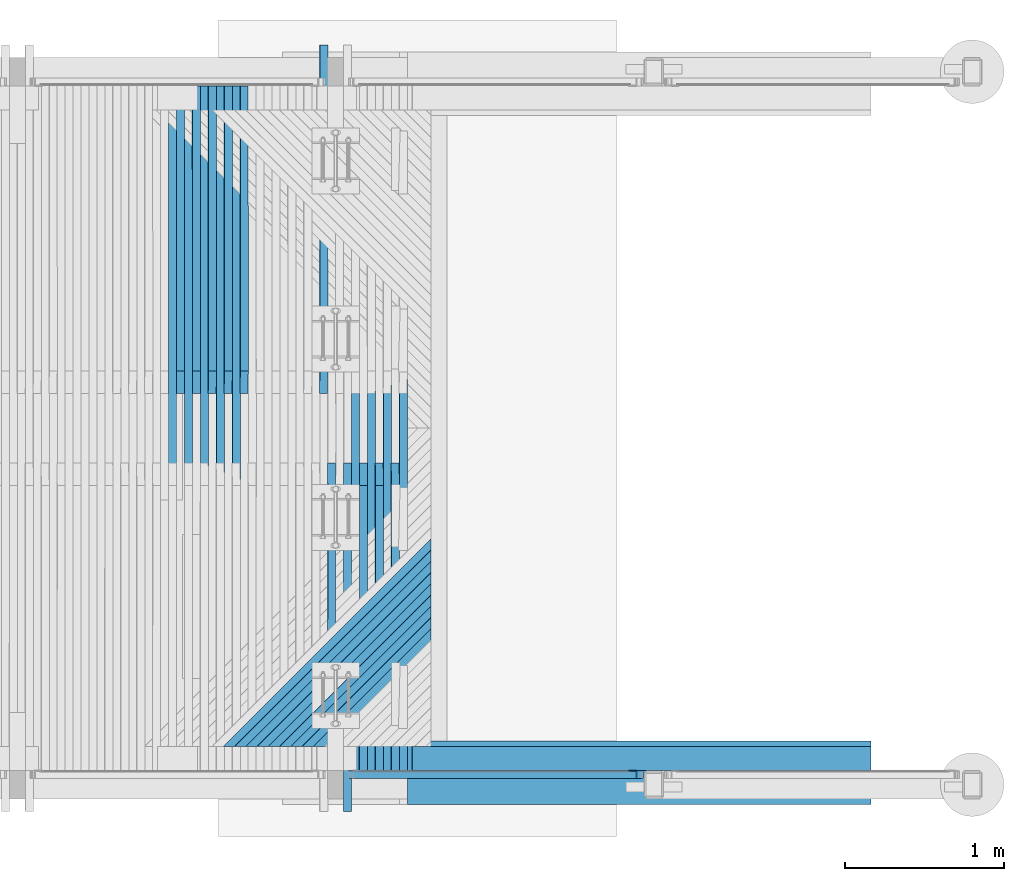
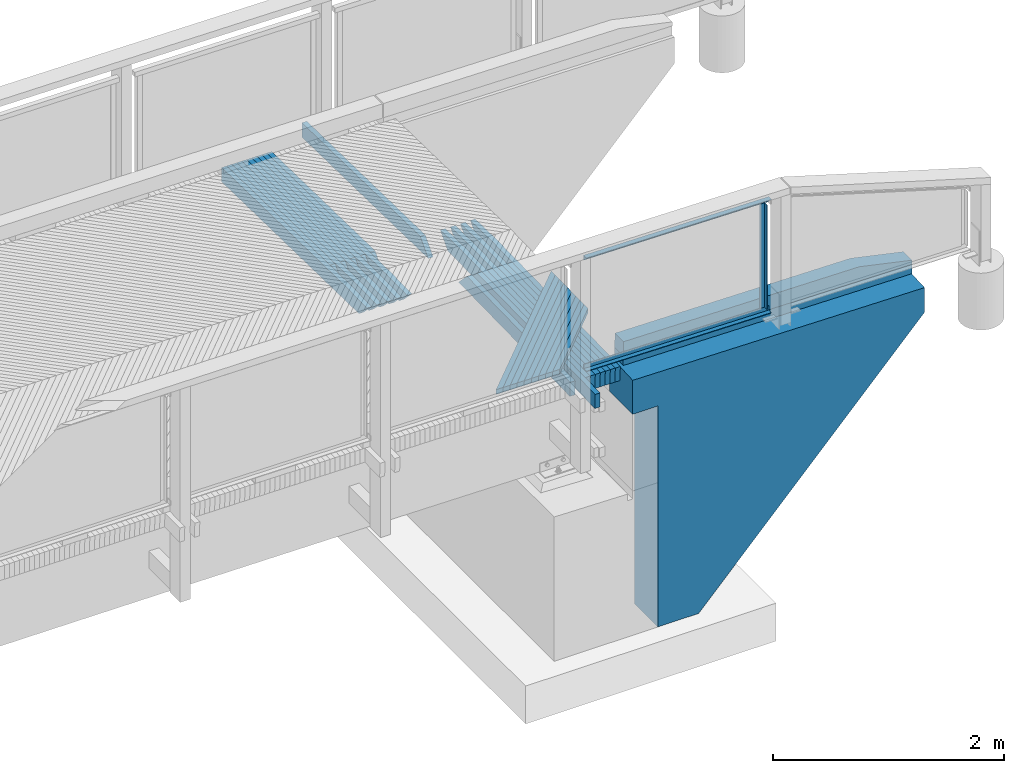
# One storey, part 46 of 65: 35 beams.
"""IFC2X3 building model written with IfcOpenShell, lengths in millimetres."""

from ifc_helpers import new_model, si_unit, frame, origin_with_axes, place, context, subcontext, project, spatial, faceted_brep, material, type_object, element, save


model = new_model("IFC2X3")

# Units and contexts
model_context = context("Model", 3, precision=1e-05, world=origin_with_axes())
body_context = subcontext(model_context, "Body", "Model", "MODEL_VIEW")
ifc_project = project(units=[si_unit("LENGTHUNIT", "METRE", prefix="MILLI"), si_unit("AREAUNIT", "SQUARE_METRE"), si_unit("VOLUMEUNIT", "CUBIC_METRE"), si_unit("MASSUNIT", "GRAM", prefix="KILO"), si_unit("TIMEUNIT", "SECOND"), si_unit("PLANEANGLEUNIT", "RADIAN"), si_unit("SOLIDANGLEUNIT", "STERADIAN"), si_unit("THERMODYNAMICTEMPERATUREUNIT", "DEGREE_CELSIUS"), si_unit("LUMINOUSINTENSITYUNIT", "LUMEN")], contexts=[model_context])

# Site, building, storey
site_placement = place(None, origin_with_axes())
site = spatial("IfcSite", under=ifc_project, at=site_placement, Name="Undefined", CompositionType="ELEMENT")
building_placement = place(site_placement, origin_with_axes())
building = spatial("IfcBuilding", under=site, at=building_placement, Name="Undefined", CompositionType="ELEMENT")
storey_placement = place(building_placement, origin_with_axes())
storey = spatial("IfcBuildingStorey", under=building, at=storey_placement, Name="Undefined", CompositionType="ELEMENT", Elevation=0.0)

# Beams
ifc_material_1 = material(Name="TIMBER/Timber_Undefined")
beam_type_1 = type_object("IfcBeamType", Name="150*100", PredefinedType="NOTDEFINED")
beam_1_placement = place(storey_placement, frame((19364.0305880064, 20289.9999999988, 3118.6757290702), z_axis=(0.0, -1.0, 0.0), x_axis=(-0.999904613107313, 0.0, 0.0138117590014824)))
element("IfcBeam", 1, at=beam_1_placement, inside=storey, type_object=beam_type_1, material=ifc_material_1, Name="TÖRMÄYSJOHDE", ObjectType="150*100", context=body_context, shape_type="Brep", body=[
    faceted_brep([(-3.63797880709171e-12, 50.0, -75.0), (-3.63797880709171e-12, 50.0, 75.0), (2885.27521749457, 50.0, 75.0), (2885.27521749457, 50.0, -75.0), (0.0, -49.9999999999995, 75.0), (2885.27521749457, -49.9999999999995, 75.0), (0.0, -49.9999999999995, -75.0), (2885.27521749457, -49.9999999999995, -75.0)], [[[0, 1, 2, 3]], [[1, 4, 5, 2]], [[4, 6, 7, 5]], [[6, 0, 3, 7]], [[5, 7, 3, 2]], [[6, 4, 1, 0]]]),
])
beam_type_2 = type_object("IfcBeamType", Name="150*150", PredefinedType="NOTDEFINED")
beam_2_placement = place(storey_placement, frame((19366.0358819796, 20289.9999999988, 3243.66334439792), z_axis=(0.0, -1.0, 0.0), x_axis=(-0.999904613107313, 0.0, 0.0138117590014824)))
element("IfcBeam", 2, at=beam_2_placement, inside=storey, type_object=beam_type_2, material=ifc_material_1, Name="TÖRMÄYSJOHDE", ObjectType="150*150", context=body_context, shape_type="Brep", body=[
    faceted_brep([(2885.27521749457, -74.9999999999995, 75.0), (2885.27521749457, -74.9999999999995, -75.0), (2885.27521749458, 75.0, -75.0), (2885.27521749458, 75.0, 75.0), (3.63797880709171e-12, 75.0000000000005, -75.0), (3.63797880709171e-12, 75.0000000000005, 75.0), (3.63797880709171e-12, 33.1222400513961, -75.0), (3.63797880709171e-12, 33.1222400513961, 75.0), (529.511118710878, -75.0, 75.0), (529.511118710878, -75.0, -75.0)], [[[0, 1, 2, 3]], [[4, 5, 3, 2]], [[5, 4, 6, 7]], [[0, 3, 5, 7, 8]], [[1, 0, 8, 9]], [[4, 2, 1, 9, 6]], [[8, 7, 6, 9]]]),
])
ifc_material_2 = material(Name="CONCRETE/Concrete_Undefined")
beam_type_3 = type_object("IfcBeamType", Name="2800*400", PredefinedType="NOTDEFINED")
beam_3_placement = place(storey_placement, frame((16430.3400332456, 20200.0, 1712.66804762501), z_axis=(0.0140428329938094, 0.0, 0.999901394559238), x_axis=(0.999901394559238, 0.0, -0.0140428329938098)))
element("IfcBeam", 3, at=beam_3_placement, inside=storey, type_object=beam_type_3, material=ifc_material_2, Name="SIIPIMUURI", ObjectType="2800*400", context=body_context, shape_type="Brep", body=[
    faceted_brep([(5.63100911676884e-07, 200.0, 1400.0), (0.280884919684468, -200.000000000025, 1380.0), (2915.56834818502, -200.0, 1380.0), (2915.28746382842, 200.0, 1400.0), (270.457242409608, 199.999999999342, -54.8754727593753), (270.457242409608, -200.0, -54.8754727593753), (255.29098277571, -200.0, 1025.01803336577), (255.29098277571, 199.999999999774, 1025.01803336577), (288.066954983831, 200.0, -1308.75182153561), (288.066954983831, -200.0, -1308.75182153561), (697.173583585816, 200.0, -1303.00623892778), (697.173583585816, -200.0, -1303.00623892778), (2919.22031514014, 200.0, 1119.96651154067), (2919.22031514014, -200.0, 1119.96651154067), (5.31563413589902, -200.0, 1021.50732511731), (5.31563413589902, 199.999999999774, 1021.50732511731)], [[[0, 1, 2, 3]], [[4, 5, 6, 7]], [[8, 9, 5, 4]], [[10, 11, 9, 8]], [[12, 13, 11, 10]], [[13, 12, 3, 2]], [[14, 6, 5, 9, 11, 13, 2, 1]], [[7, 6, 14, 15]], [[3, 12, 10, 8, 4, 7, 15, 0]], [[15, 14, 1, 0]]]),
])
ifc_material_3 = material(Name="STEEL/S235JR")
beam_type_4 = type_object("IfcBeamType", Name="L50*5", PredefinedType="NOTDEFINED")
beam_4_placement = place(storey_placement, frame((17867.5024948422, 20190.01, 4335.13069314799), z_axis=(0.0, -1.0, 0.0), x_axis=(0.0, 0.0, -1.0)))
element("IfcBeam", 4, at=beam_4_placement, inside=storey, type_object=beam_type_4, material=ifc_material_3, Name="BEAM", ObjectType="L50*5", context=body_context, shape_type="Brep", body=[
    faceted_brep([(0.0, 25.0, -25.0), (0.0, 25.0, 25.0), (1099.98982283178, 25.0, 25.0), (1099.98982283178, 25.0, -25.0), (0.0, 20.0, 25.0), (1099.98982283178, 20.0, 25.0), (0.0, 20.0, -20.0), (1099.98982283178, 20.0, -20.0), (0.0, -25.0, -20.0), (1099.98982283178, -25.0, -20.0), (0.0, -25.0, -25.0), (1099.98982283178, -25.0, -25.0)], [[[0, 1, 2, 3]], [[1, 4, 5, 2]], [[4, 6, 7, 5]], [[6, 8, 9, 7]], [[8, 10, 11, 9]], [[10, 0, 3, 11]], [[5, 7, 9, 11, 3, 2]], [[10, 8, 6, 4, 1, 0]]]),
])
for number, where, z_axis, x_axis, name in (
    (5, (17932.3725338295, 20190.0099999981, 3209.54440179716), (0.0, -1.0, 0.0), (-0.999888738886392, 0.0, 0.0149167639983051), "BEAM"),
    (6, (16082.6270966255, 20190.0100000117, 4387.1348513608), (0.0, -1.0, 0.0), (0.999888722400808, 0.0, -0.0149178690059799), "BEAM"),
):
    element("IfcBeam", number, at=place(storey_placement, frame(where, z_axis=z_axis, x_axis=x_axis)), inside=storey, type_object=beam_type_4, material=ifc_material_3, Name=name, ObjectType="L50*5", context=body_context, shape_type="Brep", body=[
        faceted_brep([(0.0, 25.0, -25.0), (0.0, 25.0, 25.0), (1849.2053154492, 25.0, 25.0), (1849.2053154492, 25.0, -25.0), (0.0, 20.0, 25.0), (1849.2053154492, 20.0, 25.0), (0.0, 20.0, -20.0), (1849.2053154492, 20.0, -20.0), (0.0, -25.0, -20.0), (1849.2053154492, -24.9999999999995, -20.0), (0.0, -25.0, -25.0), (1849.2053154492, -24.9999999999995, -25.0)], [[[0, 1, 2, 3]], [[1, 4, 5, 2]], [[4, 6, 7, 5]], [[6, 8, 9, 7]], [[8, 10, 11, 9]], [[10, 0, 3, 11]], [[5, 7, 9, 11, 3, 2]], [[10, 8, 6, 4, 1, 0]]]),
    ])
beam_type_5 = type_object("IfcBeamType", Name="50*50", PredefinedType="NOTDEFINED")
beam_5_placement = place(storey_placement, frame((17895.3052888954, 22364.5001003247, 3154.80495489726), z_axis=(0.706807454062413, -0.706981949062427, -0.0244897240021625), x_axis=(-0.707254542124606, -0.706948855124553, -0.00378535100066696)))
element("IfcBeam", 7, at=beam_5_placement, inside=storey, type_object=beam_type_5, material=ifc_material_1, Name="BEAM", ObjectType="50*50", context=body_context, shape_type="Brep", body=[
    faceted_brep([(2802.92643296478, -25.0, 25.0000000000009), (2852.92877373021, -25.0000000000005, -24.9999999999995), (2854.34301907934, 24.9999999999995, -25.0), (2804.3406783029, 25.0, 25.0000000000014), (1805.95401836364, 25.0, -24.9999999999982), (1855.92241106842, 24.9999999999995, 25.0000000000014), (1856.9571734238, -25.0, 25.000000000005), (1806.98878071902, -25.0, -24.9999999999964)], [[[0, 1, 2, 3]], [[3, 2, 4, 5]], [[0, 3, 5, 6]], [[1, 0, 6, 7]], [[2, 1, 7, 4]], [[6, 5, 4, 7]]]),
])
beam_6_placement = place(storey_placement, frame((17824.5905388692, 22364.5001003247, 3155.96311087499), z_axis=(0.706810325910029, -0.706981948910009, -0.0244067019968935), x_axis=(-0.707254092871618, -0.706948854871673, -0.00386842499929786)))
element("IfcBeam", 8, at=beam_6_placement, inside=storey, type_object=beam_type_5, material=ifc_material_1, Name="BEAM", ObjectType="50*50", context=body_context, shape_type="Brep", body=[
    faceted_brep([(2802.92643296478, -25.0, 25.0000000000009), (2852.92877373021, -25.0000000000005, -24.9999999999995), (2854.34301907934, 24.9999999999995, -25.0), (2804.3406783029, 25.0, 25.0000000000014), (1705.97428604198, 24.9999999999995, -24.9999999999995), (1755.94291351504, 24.9999999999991, 25.0000000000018), (1756.96937511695, -25.0, 25.0), (1707.0007476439, -25.0000000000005, -24.9999999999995)], [[[0, 1, 2, 3]], [[3, 2, 4, 5]], [[0, 3, 5, 6]], [[1, 0, 6, 7]], [[2, 1, 7, 4]], [[6, 5, 4, 7]]]),
])
beam_7_placement = place(storey_placement, frame((17753.8756532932, 22364.5001003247, 3157.11296064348), z_axis=(0.706813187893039, -0.706981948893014, -0.0243236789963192), x_axis=(-0.707253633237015, -0.706948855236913, -0.0039515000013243)))
element("IfcBeam", 9, at=beam_7_placement, inside=storey, type_object=beam_type_5, material=ifc_material_1, Name="BEAM", ObjectType="50*50", context=body_context, shape_type="Brep", body=[
    faceted_brep([(2802.92643296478, -25.0, 25.0000000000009), (2852.92877373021, -25.0000000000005, -24.9999999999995), (2854.34301907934, 24.9999999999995, -25.0), (2804.3406783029, 25.0, 25.0000000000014), (1605.99425901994, 25.0000000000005, -25.0000000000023), (1655.96312129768, 25.0000000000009, 24.9999999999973), (1656.98128205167, -24.9999999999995, 24.9999999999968), (1607.01241977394, -24.9999999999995, -25.0000000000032)], [[[0, 1, 2, 3]], [[3, 2, 4, 5]], [[0, 3, 5, 6]], [[1, 0, 6, 7]], [[2, 1, 7, 4]], [[6, 5, 4, 7]]]),
])
beam_8_placement = place(storey_placement, frame((17683.1606331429, 22364.5001003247, 3158.25450418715), z_axis=(0.706816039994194, -0.706981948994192, -0.0242406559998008), x_axis=(-0.707253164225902, -0.706948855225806, -0.00403457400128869)))
element("IfcBeam", 10, at=beam_8_placement, inside=storey, type_object=beam_type_5, material=ifc_material_1, Name="BEAM", ObjectType="50*50", context=body_context, shape_type="Brep", body=[
    faceted_brep([(2802.92643296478, -25.0, 25.0000000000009), (2852.92877373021, -25.0000000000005, -24.9999999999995), (2854.34301907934, 24.9999999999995, -25.0), (2804.3406783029, 25.0, 25.0000000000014), (1506.01393205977, 25.0000000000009, -24.9999999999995), (1555.98302910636, 25.0000000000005, 25.0000000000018), (1556.99288906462, -24.9999999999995, 24.9999999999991), (1507.02379201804, -24.9999999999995, -24.9999999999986)], [[[0, 1, 2, 3]], [[3, 2, 4, 5]], [[0, 3, 5, 6]], [[1, 0, 6, 7]], [[2, 1, 7, 4]], [[6, 5, 4, 7]]]),
])
beam_9_placement = place(storey_placement, frame((17612.4454793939, 22364.5001003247, 3159.38774149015), z_axis=(0.706818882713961, -0.706981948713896, -0.0241576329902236), x_axis=(-0.70725268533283, -0.706948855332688, -0.00411764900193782)))
element("IfcBeam", 11, at=beam_9_placement, inside=storey, type_object=beam_type_5, material=ifc_material_1, Name="BEAM", ObjectType="50*50", context=body_context, shape_type="Brep", body=[
    faceted_brep([(2802.92643296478, -25.0, 25.0000000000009), (2852.92877373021, -25.0000000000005, -24.9999999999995), (2854.34301907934, 24.9999999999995, -25.0), (2804.3406783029, 25.0, 25.0000000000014), (1406.03330360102, 24.9999999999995, -25.0000000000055), (1456.00263545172, 24.9999999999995, 24.9999999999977), (1457.0041945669, -25.0000000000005, 24.9999999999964), (1407.03486271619, -25.0000000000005, -25.000000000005)], [[[0, 1, 2, 3]], [[3, 2, 4, 5]], [[0, 3, 5, 6]], [[1, 0, 6, 7]], [[2, 1, 7, 4]], [[6, 5, 4, 7]]]),
])
beam_10_placement = place(storey_placement, frame((17541.730193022, 22364.5001003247, 3160.51267253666), z_axis=(0.706821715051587, -0.706981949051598, -0.0240746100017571), x_axis=(-0.707252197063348, -0.706948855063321, -0.00420072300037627)))
element("IfcBeam", 12, at=beam_10_placement, inside=storey, type_object=beam_type_5, material=ifc_material_1, Name="BEAM", ObjectType="50*50", context=body_context, shape_type="Brep", body=[
    faceted_brep([(2802.92643296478, -25.0, 25.0000000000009), (2852.92877373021, -25.0000000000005, -24.9999999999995), (2854.34301907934, 24.9999999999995, -25.0), (2804.3406783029, 25.0, 25.0000000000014), (1306.05236988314, 25.0000000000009, -25.0000000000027), (1356.02193646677, 25.0, 24.9999999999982), (1357.0151947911, -25.0, 24.9999999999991), (1307.04562820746, -24.9999999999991, -25.0)], [[[0, 1, 2, 3]], [[3, 2, 4, 5]], [[0, 3, 5, 6]], [[1, 0, 6, 7]], [[2, 1, 7, 4]], [[6, 5, 4, 7]]]),
])
beam_11_placement = place(storey_placement, frame((17471.0147750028, 22364.5001003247, 3161.6292973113), z_axis=(0.706824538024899, -0.706981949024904, -0.0239915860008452), x_axis=(-0.707251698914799, -0.706948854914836, -0.004283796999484)))
element("IfcBeam", 13, at=beam_11_placement, inside=storey, type_object=beam_type_5, material=ifc_material_1, Name="BEAM", ObjectType="50*50", context=body_context, shape_type="Brep", body=[
    faceted_brep([(2802.92643296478, -25.0, 25.0000000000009), (2852.92877373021, -25.0000000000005, -24.9999999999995), (2854.34301907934, 24.9999999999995, -25.0), (2804.3406783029, 25.0, 25.0000000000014), (1206.07112918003, 24.9999999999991, -25.0000000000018), (1256.04093053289, 25.0, 25.0000000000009), (1257.02588801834, -25.0000000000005, 24.9999999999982), (1207.05608666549, -25.0000000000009, -25.0000000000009)], [[[0, 1, 2, 3]], [[3, 2, 4, 5]], [[0, 3, 5, 6]], [[1, 0, 6, 7]], [[2, 1, 7, 4]], [[6, 5, 4, 7]]]),
])
beam_12_placement = place(storey_placement, frame((17400.2992263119, 22364.5001003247, 3162.73761579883), z_axis=(0.706827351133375, -0.706981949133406, -0.0239085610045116), x_axis=(-0.707251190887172, -0.70694885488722, -0.00436687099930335)))
element("IfcBeam", 14, at=beam_12_placement, inside=storey, type_object=beam_type_5, material=ifc_material_1, Name="BEAM", ObjectType="50*50", context=body_context, shape_type="Brep", body=[
    faceted_brep([(2802.92643296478, -25.0, 25.0000000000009), (2852.92877373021, -25.0000000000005, -24.9999999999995), (2854.34301907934, 24.9999999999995, -25.0), (2804.3406783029, 25.0, 25.0000000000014), (1106.08957869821, 24.9999999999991, -24.9999999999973), (1156.05961482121, 24.9999999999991, 25.0000000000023), (1157.03627142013, -25.0000000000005, 25.0000000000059), (1107.06623529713, -25.0000000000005, -24.9999999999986)], [[[0, 1, 2, 3]], [[3, 2, 4, 5]], [[0, 3, 5, 6]], [[1, 0, 6, 7]], [[2, 1, 7, 4]], [[6, 5, 4, 7]]]),
])
beam_13_placement = place(storey_placement, frame((17329.583547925, 22364.5001003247, 3163.83762798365), z_axis=(0.706830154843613, -0.706981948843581, -0.0238255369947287), x_axis=(-0.707250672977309, -0.706948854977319, -0.00444994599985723)))
element("IfcBeam", 15, at=beam_13_placement, inside=storey, type_object=beam_type_5, material=ifc_material_1, Name="BEAM", ObjectType="50*50", context=body_context, shape_type="Brep", body=[
    faceted_brep([(2802.92643296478, -25.0, 25.0000000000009), (2852.92877373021, -25.0000000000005, -24.9999999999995), (2854.34301907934, 24.9999999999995, -25.0), (2804.3406783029, 25.0, 25.0000000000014), (1006.10771559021, 24.9999999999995, -25.0000000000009), (1056.07798651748, 24.9999999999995, 24.9999999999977), (1057.04634223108, -25.0000000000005, 25.0), (1007.0760713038, -25.0000000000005, -24.9999999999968)], [[[0, 1, 2, 3]], [[3, 2, 4, 5]], [[0, 3, 5, 6]], [[1, 0, 6, 7]], [[2, 1, 7, 4]], [[6, 5, 4, 7]]]),
])
beam_type_6 = type_object("IfcBeamType", Name="150*50", PredefinedType="NOTDEFINED")
beam_14_placement = place(storey_placement, frame((16374.1835977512, 20216.5046076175, 3034.87917629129), z_axis=(0.013832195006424, -0.0199960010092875, 0.999704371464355), x_axis=(0.000276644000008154, 0.999800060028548, 0.0199940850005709)))
element("IfcBeam", 16, at=beam_14_placement, inside=storey, type_object=beam_type_6, material=ifc_material_1, Name="BEAM", ObjectType="150*50", context=body_context, shape_type="Brep", body=[
    faceted_brep([(-1.6778358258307e-07, -24.9999999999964, -74.9999999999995), (1.67790858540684e-07, -24.9999999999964, 75.0000000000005), (1.67790858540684e-07, 25.0000000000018, 74.9999999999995), (-1.6778358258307e-07, 25.0000000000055, -75.0), (1789.96936433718, -25.0000000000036, 74.9999999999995), (1789.96936408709, 24.9999999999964, 75.0), (1928.42646328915, 24.9999999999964, -75.0), (1928.42646353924, -25.0, -75.0000000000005)], [[[0, 1, 2, 3]], [[2, 1, 4, 5]], [[3, 2, 5, 6]], [[0, 3, 6, 7]], [[1, 0, 7, 4]], [[6, 5, 4, 7]]]),
])
beam_15_placement = place(storey_placement, frame((16424.1987277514, 20216.5046076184, 3034.17884260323), z_axis=(0.0139982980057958, -0.0199960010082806, 0.999702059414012), x_axis=(0.000279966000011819, 0.999800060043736, 0.0199940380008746)))
element("IfcBeam", 17, at=beam_15_placement, inside=storey, type_object=beam_type_6, material=ifc_material_1, Name="BEAM", ObjectType="150*50", context=body_context, shape_type="Brep", body=[
    faceted_brep([(-1.6778358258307e-07, -24.9999999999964, -74.9999999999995), (1.67790858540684e-07, -24.9999999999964, 75.0000000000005), (1.67790858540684e-07, 25.0000000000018, 74.9999999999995), (-1.6778358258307e-07, 25.0000000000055, -75.0), (2375.00494422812, 25.0000000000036, -75.0), (2375.00494447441, -24.9999999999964, -74.9999999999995), (2510.59248714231, -24.9999999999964, 60.5875430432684), (2150.42514405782, -24.9999999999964, 75.0000000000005), (2150.42515052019, 25.0000000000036, 74.9999999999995), (2510.59248715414, 25.0000000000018, 60.5875433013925)], [[[0, 1, 2, 3]], [[0, 3, 4, 5]], [[1, 0, 5, 6, 7]], [[2, 1, 7, 8]], [[4, 3, 2, 8, 9]], [[5, 4, 9, 6]], [[6, 9, 8, 7]]]),
])
beam_16_placement = place(storey_placement, frame((16274.1731307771, 20216.5046076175, 3036.26228302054), z_axis=(0.0136660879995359, -0.0199960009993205, 0.999706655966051), x_axis=(0.000273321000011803, 0.999800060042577, 0.0199941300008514)))
element("IfcBeam", 18, at=beam_16_placement, inside=storey, type_object=beam_type_6, material=ifc_material_1, Name="BEAM", ObjectType="150*50", context=body_context, shape_type="Brep", body=[
    faceted_brep([(-1.6778358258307e-07, -24.9999999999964, -74.9999999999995), (1.67790858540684e-07, -24.9999999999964, 75.0000000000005), (1.67790858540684e-07, 25.0000000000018, 74.9999999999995), (-1.6778358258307e-07, 25.0000000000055, -75.0), (1789.96936433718, -25.0000000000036, 74.9999999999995), (1789.96936408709, 24.9999999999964, 75.0), (1928.42646328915, 24.9999999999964, -75.0), (1928.42646353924, -25.0, -75.0000000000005)], [[[0, 1, 2, 3]], [[2, 1, 4, 5]], [[3, 2, 5, 6]], [[0, 3, 6, 7]], [[1, 0, 7, 4]], [[6, 5, 4, 7]]]),
])
beam_17_placement = place(storey_placement, frame((16324.1883764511, 20216.5046076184, 3035.57025962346), z_axis=(0.013832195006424, -0.0199960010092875, 0.999704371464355), x_axis=(0.000276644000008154, 0.999800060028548, 0.0199940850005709)))
element("IfcBeam", 19, at=beam_17_placement, inside=storey, type_object=beam_type_6, material=ifc_material_1, Name="BEAM", ObjectType="150*50", context=body_context, shape_type="Brep", body=[
    faceted_brep([(-1.6778358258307e-07, -24.9999999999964, -74.9999999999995), (1.67790858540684e-07, -24.9999999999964, 75.0000000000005), (1.67790858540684e-07, 25.0000000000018, 74.9999999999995), (-1.6778358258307e-07, 25.0000000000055, -75.0), (2375.00494422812, 25.0000000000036, -75.0), (2375.00494447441, -24.9999999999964, -74.9999999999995), (2510.59248714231, -24.9999999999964, 60.5875430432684), (2150.42514405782, -24.9999999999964, 75.0000000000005), (2150.42515052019, 25.0000000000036, 74.9999999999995), (2510.59248715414, 25.0000000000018, 60.5875433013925)], [[[0, 1, 2, 3]], [[0, 3, 4, 5]], [[1, 0, 5, 6, 7]], [[2, 1, 7, 8]], [[4, 3, 2, 8, 9]], [[5, 4, 9, 6]], [[6, 9, 8, 7]]]),
])
beam_18_placement = place(storey_placement, frame((16174.162435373, 20216.5046076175, 3037.62877245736), z_axis=(0.0134999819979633, -0.0199960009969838, 0.999708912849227), x_axis=(0.000269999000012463, 0.999800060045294, 0.0199941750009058)))
element("IfcBeam", 20, at=beam_18_placement, inside=storey, type_object=beam_type_6, material=ifc_material_1, Name="BEAM", ObjectType="150*50", context=body_context, shape_type="Brep", body=[
    faceted_brep([(-1.6778358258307e-07, -24.9999999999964, -74.9999999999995), (1.67790858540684e-07, -24.9999999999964, 75.0000000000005), (1.67790858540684e-07, 25.0000000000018, 74.9999999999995), (-1.6778358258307e-07, 25.0000000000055, -75.0), (1789.96936433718, -25.0000000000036, 74.9999999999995), (1789.96936408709, 24.9999999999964, 75.0), (1928.42646328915, 24.9999999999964, -75.0), (1928.42646353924, -25.0, -75.0000000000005)], [[[0, 1, 2, 3]], [[2, 1, 4, 5]], [[3, 2, 5, 6]], [[0, 3, 6, 7]], [[1, 0, 7, 4]], [[6, 5, 4, 7]]]),
])
for number, where, z_axis, x_axis, name in (
    (21, (16224.1777953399, 20216.5046076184, 3036.94505937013), (0.0136660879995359, -0.0199960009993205, 0.999706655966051), (0.000273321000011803, 0.999800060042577, 0.0199941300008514), "BEAM"),
    (22, (16124.166987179, 20216.5046076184, 3038.30324180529), (0.0134999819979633, -0.0199960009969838, 0.999708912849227), (0.000269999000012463, 0.999800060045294, 0.0199941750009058), "BEAM"),
):
    element("IfcBeam", number, at=place(storey_placement, frame(where, z_axis=z_axis, x_axis=x_axis)), inside=storey, type_object=beam_type_6, material=ifc_material_1, Name=name, ObjectType="150*50", context=body_context, shape_type="Brep", body=[
        faceted_brep([(-1.6778358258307e-07, -24.9999999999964, -74.9999999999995), (1.67790858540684e-07, -24.9999999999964, 75.0000000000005), (1.67790858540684e-07, 25.0000000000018, 74.9999999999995), (-1.6778358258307e-07, 25.0000000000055, -75.0), (2375.00494422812, 25.0000000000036, -75.0), (2375.00494447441, -24.9999999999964, -74.9999999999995), (2510.59248714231, -24.9999999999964, 60.5875430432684), (2150.42514405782, -24.9999999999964, 75.0000000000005), (2150.42515052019, 25.0000000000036, 74.9999999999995), (2510.59248715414, 25.0000000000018, 60.5875433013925)], [[[0, 1, 2, 3]], [[0, 3, 4, 5]], [[1, 0, 5, 6, 7]], [[2, 1, 7, 8]], [[4, 3, 2, 8, 9]], [[5, 4, 9, 6]], [[6, 9, 8, 7]]]),
    ])
beam_19_placement = place(storey_placement, frame((15974.1403703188, 20216.5046076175, 3040.31189930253), z_axis=(0.0131677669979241, -0.019996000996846, 0.999713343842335), x_axis=(0.00026335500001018, 0.999800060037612, 0.0199942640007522)))
element("IfcBeam", 23, at=beam_19_placement, inside=storey, type_object=beam_type_6, material=ifc_material_1, Name="BEAM", ObjectType="150*50", context=body_context, shape_type="Brep", body=[
    faceted_brep([(-1.6778358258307e-07, -24.9999999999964, -74.9999999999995), (1.67790858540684e-07, -24.9999999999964, 75.0000000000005), (1.67790858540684e-07, 25.0000000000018, 74.9999999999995), (-1.6778358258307e-07, 25.0000000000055, -75.0), (1789.96936433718, -25.0000000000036, 74.9999999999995), (1789.96936408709, 24.9999999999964, 75.0), (1928.42646328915, 24.9999999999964, -75.0), (1928.42646353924, -25.0, -75.0000000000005)], [[[0, 1, 2, 3]], [[2, 1, 4, 5]], [[3, 2, 5, 6]], [[0, 3, 6, 7]], [[1, 0, 7, 4]], [[6, 5, 4, 7]]]),
])
beam_20_placement = place(storey_placement, frame((15374.6689796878, 24513.4953923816, 3047.96305914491), z_axis=(0.0121711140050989, 0.0199960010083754, 0.999725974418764), x_axis=(0.000243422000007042, -0.999800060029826, 0.0199945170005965)))
element("IfcBeam", 24, at=beam_20_placement, inside=storey, type_object=beam_type_6, material=ifc_material_1, Name="BEAM", ObjectType="150*50", context=body_context, shape_type="Brep", body=[
    faceted_brep([(-1.6778358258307e-07, -24.9999999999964, -74.9999999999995), (-1.6778358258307e-07, 25.0000000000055, -75.0), (2375.00494422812, 25.0000000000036, -75.0), (2375.00494447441, -24.9999999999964, -74.9999999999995), (1.67790858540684e-07, -24.9999999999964, 75.0000000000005), (1.67790858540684e-07, 25.0000000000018, 74.9999999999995), (2150.42515052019, 25.0000000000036, 74.9999999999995), (2510.59248715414, 25.0000000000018, 60.5875433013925), (2510.59248714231, -24.9999999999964, 60.5875430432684), (2150.42514405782, -24.9999999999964, 75.0000000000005)], [[[0, 1, 2, 3]], [[0, 4, 5, 1]], [[2, 1, 5, 6, 7]], [[3, 2, 7, 8]], [[4, 0, 3, 8, 9]], [[5, 4, 9, 6]], [[8, 7, 6, 9]]]),
])
beam_21_placement = place(storey_placement, frame((15424.6852042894, 24513.4953923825, 3047.34582919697), z_axis=(0.0123372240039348, 0.0199960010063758, 0.999723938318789), x_axis=(0.000246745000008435, -0.999800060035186, 0.0199944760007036)))
element("IfcBeam", 25, at=beam_21_placement, inside=storey, type_object=beam_type_6, material=ifc_material_1, Name="BEAM", ObjectType="150*50", context=body_context, shape_type="Brep", body=[
    faceted_brep([(-1.6778358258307e-07, -24.9999999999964, -74.9999999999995), (1.67790858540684e-07, -24.9999999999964, 75.0000000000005), (1.67790858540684e-07, 25.0000000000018, 74.9999999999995), (-1.6778358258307e-07, 25.0000000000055, -75.0), (1789.96936408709, 24.9999999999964, 75.0), (1928.42646328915, 24.9999999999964, -75.0), (1928.42646353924, -25.0, -75.0000000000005), (1789.96936433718, -25.0000000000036, 74.9999999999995)], [[[0, 1, 2, 3]], [[3, 2, 4, 5]], [[0, 3, 5, 6]], [[1, 0, 6, 7]], [[2, 1, 7, 4]], [[5, 4, 7, 6]]]),
])
beam_22_placement = place(storey_placement, frame((15274.6563525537, 24513.4953923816, 3049.1800909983), z_axis=(0.0120050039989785, 0.0199960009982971, 0.999727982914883), x_axis=(0.000240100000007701, -0.999800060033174, 0.0199945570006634)))
element("IfcBeam", 26, at=beam_22_placement, inside=storey, type_object=beam_type_6, material=ifc_material_1, Name="BEAM", ObjectType="150*50", context=body_context, shape_type="Brep", body=[
    faceted_brep([(-1.6778358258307e-07, -24.9999999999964, -74.9999999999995), (-1.6778358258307e-07, 25.0000000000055, -75.0), (2375.00494422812, 25.0000000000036, -75.0), (2375.00494447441, -24.9999999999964, -74.9999999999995), (1.67790858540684e-07, -24.9999999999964, 75.0000000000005), (1.67790858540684e-07, 25.0000000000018, 74.9999999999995), (2150.42515052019, 25.0000000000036, 74.9999999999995), (2510.59248715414, 25.0000000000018, 60.5875433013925), (2510.59248714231, -24.9999999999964, 60.5875430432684), (2150.42514405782, -24.9999999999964, 75.0000000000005)], [[[0, 1, 2, 3]], [[0, 4, 5, 1]], [[2, 1, 5, 6, 7]], [[3, 2, 7, 8]], [[4, 0, 3, 8, 9]], [[5, 4, 9, 6]], [[8, 7, 6, 9]]]),
])
beam_23_placement = place(storey_placement, frame((15324.672679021, 24513.4953923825, 3048.57117152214), z_axis=(0.0121711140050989, 0.0199960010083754, 0.999725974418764), x_axis=(0.000243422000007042, -0.999800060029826, 0.0199945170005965)))
element("IfcBeam", 27, at=beam_23_placement, inside=storey, type_object=beam_type_6, material=ifc_material_1, Name="BEAM", ObjectType="150*50", context=body_context, shape_type="Brep", body=[
    faceted_brep([(-1.6778358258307e-07, -24.9999999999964, -74.9999999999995), (1.67790858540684e-07, -24.9999999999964, 75.0000000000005), (1.67790858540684e-07, 25.0000000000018, 74.9999999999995), (-1.6778358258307e-07, 25.0000000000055, -75.0), (1789.96936408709, 24.9999999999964, 75.0), (1928.42646328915, 24.9999999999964, -75.0), (1928.42646353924, -25.0, -75.0000000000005), (1789.96936433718, -25.0000000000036, 74.9999999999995)], [[[0, 1, 2, 3]], [[3, 2, 4, 5]], [[0, 3, 5, 6]], [[1, 0, 6, 7]], [[2, 1, 7, 4]], [[5, 4, 7, 6]]]),
])
beam_24_placement = place(storey_placement, frame((15174.6435245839, 24513.4953923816, 3050.38050520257), z_axis=(0.0118388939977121, 0.0199960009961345, 0.999729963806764), x_axis=(0.0002367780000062, -0.999800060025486, 0.0199945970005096)))
element("IfcBeam", 28, at=beam_24_placement, inside=storey, type_object=beam_type_6, material=ifc_material_1, Name="BEAM", ObjectType="150*50", context=body_context, shape_type="Brep", body=[
    faceted_brep([(-1.6778358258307e-07, -24.9999999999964, -74.9999999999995), (-1.6778358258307e-07, 25.0000000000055, -75.0), (2375.00494422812, 25.0000000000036, -75.0), (2375.00494447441, -24.9999999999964, -74.9999999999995), (1.67790858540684e-07, -24.9999999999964, 75.0000000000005), (1.67790858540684e-07, 25.0000000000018, 74.9999999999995), (2150.42515052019, 25.0000000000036, 74.9999999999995), (2510.59248715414, 25.0000000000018, 60.5875433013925), (2510.59248714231, -24.9999999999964, 60.5875430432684), (2150.42514405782, -24.9999999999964, 75.0000000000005)], [[[0, 1, 2, 3]], [[0, 4, 5, 1]], [[2, 1, 5, 6, 7]], [[3, 2, 7, 8]], [[4, 0, 3, 8, 9]], [[5, 4, 9, 6]], [[8, 7, 6, 9]]]),
])
beam_25_placement = place(storey_placement, frame((15224.659951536, 24513.4953923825, 3049.77989621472), z_axis=(0.0120050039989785, 0.0199960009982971, 0.999727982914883), x_axis=(0.000240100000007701, -0.999800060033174, 0.0199945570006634)))
element("IfcBeam", 29, at=beam_25_placement, inside=storey, type_object=beam_type_6, material=ifc_material_1, Name="BEAM", ObjectType="150*50", context=body_context, shape_type="Brep", body=[
    faceted_brep([(-1.6778358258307e-07, -24.9999999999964, -74.9999999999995), (1.67790858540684e-07, -24.9999999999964, 75.0000000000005), (1.67790858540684e-07, 25.0000000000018, 74.9999999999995), (-1.6778358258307e-07, 25.0000000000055, -75.0), (1789.96936408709, 24.9999999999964, 75.0), (1928.42646328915, 24.9999999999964, -75.0), (1928.42646353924, -25.0, -75.0000000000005), (1789.96936433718, -25.0000000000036, 74.9999999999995)], [[[0, 1, 2, 3]], [[3, 2, 4, 5]], [[0, 3, 5, 6]], [[1, 0, 6, 7]], [[2, 1, 7, 4]], [[5, 4, 7, 6]]]),
])
beam_26_placement = place(storey_placement, frame((15074.6304985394, 24513.4953923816, 3051.56430172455), z_axis=(0.0116727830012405, 0.0199960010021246, 0.999731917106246), x_axis=(0.000233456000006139, -0.999800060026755, 0.0199946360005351)))
element("IfcBeam", 30, at=beam_26_placement, inside=storey, type_object=beam_type_6, material=ifc_material_1, Name="BEAM", ObjectType="150*50", context=body_context, shape_type="Brep", body=[
    faceted_brep([(-1.6778358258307e-07, -24.9999999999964, -74.9999999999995), (-1.6778358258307e-07, 25.0000000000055, -75.0), (2375.00494422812, 25.0000000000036, -75.0), (2375.00494447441, -24.9999999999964, -74.9999999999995), (1.67790858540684e-07, -24.9999999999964, 75.0000000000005), (1.67790858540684e-07, 25.0000000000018, 74.9999999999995), (2150.42515052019, 25.0000000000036, 74.9999999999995), (2510.59248715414, 25.0000000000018, 60.5875433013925), (2510.59248714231, -24.9999999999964, 60.5875430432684), (2150.42514405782, -24.9999999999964, 75.0000000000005)], [[[0, 1, 2, 3]], [[0, 4, 5, 1]], [[2, 1, 5, 6, 7]], [[3, 2, 7, 8]], [[4, 0, 3, 8, 9]], [[5, 4, 9, 6]], [[8, 7, 6, 9]]]),
])
beam_27_placement = place(storey_placement, frame((15124.6470245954, 24513.4953923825, 3050.97200324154), z_axis=(0.0118388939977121, 0.0199960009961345, 0.999729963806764), x_axis=(0.0002367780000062, -0.999800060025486, 0.0199945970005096)))
element("IfcBeam", 31, at=beam_27_placement, inside=storey, type_object=beam_type_6, material=ifc_material_1, Name="BEAM", ObjectType="150*50", context=body_context, shape_type="Brep", body=[
    faceted_brep([(-1.6778358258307e-07, -24.9999999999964, -74.9999999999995), (1.67790858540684e-07, -24.9999999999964, 75.0000000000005), (1.67790858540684e-07, 25.0000000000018, 74.9999999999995), (-1.6778358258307e-07, 25.0000000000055, -75.0), (1789.96936408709, 24.9999999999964, 75.0), (1928.42646328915, 24.9999999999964, -75.0), (1928.42646353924, -25.0, -75.0000000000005), (1789.96936433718, -25.0000000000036, 74.9999999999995)], [[[0, 1, 2, 3]], [[3, 2, 4, 5]], [[0, 3, 5, 6]], [[1, 0, 6, 7]], [[2, 1, 7, 4]], [[5, 4, 7, 6]]]),
])
beam_28_placement = place(storey_placement, frame((14974.6172771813, 24513.4953923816, 3052.73148053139), z_axis=(0.0115066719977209, 0.0199960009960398, 0.999733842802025), x_axis=(0.00023013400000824, -0.999800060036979, 0.0199946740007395)))
element("IfcBeam", 32, at=beam_28_placement, inside=storey, type_object=beam_type_6, material=ifc_material_1, Name="BEAM", ObjectType="150*50", context=body_context, shape_type="Brep", body=[
    faceted_brep([(-1.6778358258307e-07, -24.9999999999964, -74.9999999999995), (-1.6778358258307e-07, 25.0000000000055, -75.0), (2375.00494422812, 25.0000000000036, -75.0), (2375.00494447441, -24.9999999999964, -74.9999999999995), (1.67790858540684e-07, -24.9999999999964, 75.0000000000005), (1.67790858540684e-07, 25.0000000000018, 74.9999999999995), (2150.42515052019, 25.0000000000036, 74.9999999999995), (2510.59248715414, 25.0000000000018, 60.5875433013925), (2510.59248714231, -24.9999999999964, 60.5875430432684), (2150.42514405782, -24.9999999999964, 75.0000000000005)], [[[0, 1, 2, 3]], [[0, 4, 5, 1]], [[2, 1, 5, 6, 7]], [[3, 2, 7, 8]], [[4, 0, 3, 8, 9]], [[5, 4, 9, 6]], [[8, 7, 6, 9]]]),
])
beam_29_placement = place(storey_placement, frame((15024.6339009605, 24513.4953923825, 3052.14749256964), z_axis=(0.0116727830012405, 0.0199960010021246, 0.999731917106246), x_axis=(0.000233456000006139, -0.999800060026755, 0.0199946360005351)))
element("IfcBeam", 33, at=beam_29_placement, inside=storey, type_object=beam_type_6, material=ifc_material_1, Name="BEAM", ObjectType="150*50", context=body_context, shape_type="Brep", body=[
    faceted_brep([(-1.6778358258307e-07, -24.9999999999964, -74.9999999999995), (1.67790858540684e-07, -24.9999999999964, 75.0000000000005), (1.67790858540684e-07, 25.0000000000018, 74.9999999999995), (-1.6778358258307e-07, 25.0000000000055, -75.0), (1789.96936408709, 24.9999999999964, 75.0), (1928.42646328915, 24.9999999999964, -75.0), (1928.42646353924, -25.0, -75.0000000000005), (1789.96936433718, -25.0000000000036, 74.9999999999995)], [[[0, 1, 2, 3]], [[3, 2, 4, 5]], [[0, 3, 5, 6]], [[1, 0, 6, 7]], [[2, 1, 7, 4]], [[5, 4, 7, 6]]]),
])
beam_30_placement = place(storey_placement, frame((16074.4430800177, 19958.5561921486, 3033.82076774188), z_axis=(0.0133324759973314, -0.0199960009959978, 0.999711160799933), x_axis=(0.000266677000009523, 0.999800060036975, 0.0199942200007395)))
element("IfcBeam", 34, at=beam_30_placement, inside=storey, type_object=beam_type_6, material=ifc_material_1, Name="BEAM", ObjectType="150*50", context=body_context, shape_type="Brep", body=[
    faceted_brep([(-1.6778358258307e-07, -24.9999999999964, -74.9999999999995), (1.67790858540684e-07, -24.9999999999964, 75.0000000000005), (1.67790858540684e-07, 25.0000000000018, 74.9999999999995), (-1.6778358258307e-07, 25.0000000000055, -75.0), (2047.96935255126, -25.0000000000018, 75.0000000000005), (2047.9693678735, 24.9999999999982, 75.0), (2186.42646676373, 24.9999999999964, -74.9999999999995), (2186.42645144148, -25.0000000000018, -75.0)], [[[0, 1, 2, 3]], [[2, 1, 4, 5]], [[3, 2, 5, 6]], [[0, 3, 6, 7]], [[1, 0, 7, 4]], [[6, 5, 4, 7]]]),
])
beam_31_placement = place(storey_placement, frame((15924.4354192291, 24771.443807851, 3035.81300890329), z_axis=(0.0131663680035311, 0.019996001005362, 0.9997133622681), x_axis=(0.00026335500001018, -0.999800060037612, 0.0199942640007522)))
element("IfcBeam", 35, at=beam_31_placement, inside=storey, type_object=beam_type_6, material=ifc_material_1, Name="BEAM", ObjectType="150*50", context=body_context, shape_type="Brep", body=[
    faceted_brep([(-1.6778358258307e-07, -24.9999999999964, -74.9999999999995), (1.67790858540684e-07, -24.9999999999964, 75.0000000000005), (1.67790858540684e-07, 25.0000000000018, 74.9999999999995), (-1.6778358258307e-07, 25.0000000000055, -75.0), (2047.9693678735, 24.9999999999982, 75.0), (2186.42646676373, 24.9999999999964, -74.9999999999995), (2186.42645144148, -25.0000000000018, -75.0), (2047.96935255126, -25.0000000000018, 75.0000000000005)], [[[0, 1, 2, 3]], [[3, 2, 4, 5]], [[0, 3, 5, 6]], [[1, 0, 6, 7]], [[2, 1, 7, 4]], [[5, 4, 7, 6]]]),
])

save(model, "model.ifc")
